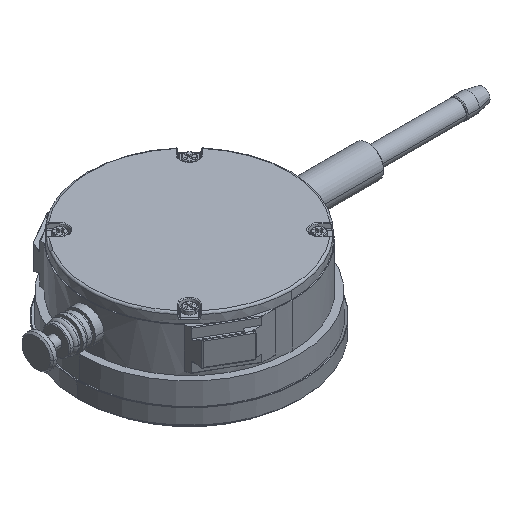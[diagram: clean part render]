
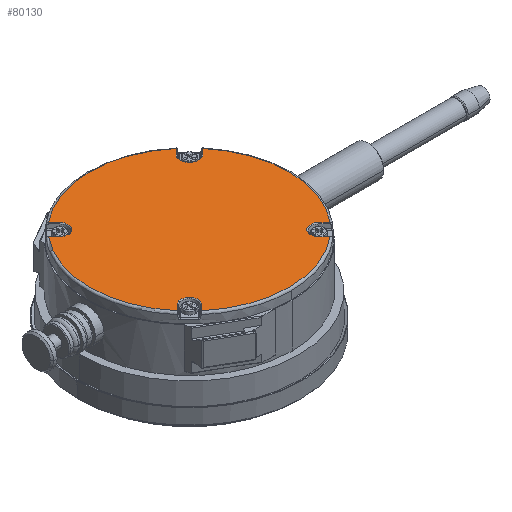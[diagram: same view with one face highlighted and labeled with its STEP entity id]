
A CAD part, isometric view. The second image highlights one B-rep face of the part: STEP entity #80130.
In plain terms, the highlighted planar face has unit normal (0, 0, 1).
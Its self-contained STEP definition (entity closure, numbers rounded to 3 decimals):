
#51090=CARTESIAN_POINT('',(-19.359,16.288,2.1));
#51100=VERTEX_POINT('',#51090);
#52960=CARTESIAN_POINT('',(14.728,-18.082,2.1));
#52970=VERTEX_POINT('',#52960);
#53160=CARTESIAN_POINT('',(16.134,-19.488,2.1));
#53170=VERTEX_POINT('',#53160);
#53200=CARTESIAN_POINT('',(0.,-3.354,2.1));
#53210=DIRECTION('',(-0.707,0.707,0.));
#53220=VECTOR('',#53210,1.);
#53230=LINE('',#53200,#53220);
#53240=EDGE_CURVE('',#53170,#52970,#53230,.T.);
#54450=CARTESIAN_POINT('',(-16.288,19.359,2.1));
#54460=VERTEX_POINT('',#54450);
#63030=CARTESIAN_POINT('',(14.869,17.94,2.1));
#63040=VERTEX_POINT('',#63030);
#63130=CARTESIAN_POINT('',(17.94,14.869,2.1));
#63140=VERTEX_POINT('',#63130);
#63170=CARTESIAN_POINT('',(16.405,16.405,2.1));
#63180=DIRECTION('',(0.,0.,1.));
#63190=DIRECTION('',(-1.,0.,0.));
#63200=AXIS2_PLACEMENT_3D('',#63170,#63180,#63190);
#63210=CIRCLE('',#63200,2.172);
#63220=EDGE_CURVE('',#63040,#63140,#63210,.T.);
#73840=CARTESIAN_POINT('',(-19.359,-16.288,2.1));
#73850=VERTEX_POINT('',#73840);
#74190=CARTESIAN_POINT('',(0.,3.071,2.1));
#74200=DIRECTION('',(0.707,0.707,0.));
#74210=VECTOR('',#74200,1.);
#74220=LINE('',#74190,#74210);
#74230=CARTESIAN_POINT('',(-17.94,-14.869,2.1));
#74240=VERTEX_POINT('',#74230);
#74250=EDGE_CURVE('',#73850,#74240,#74220,.T.);
#75430=CARTESIAN_POINT('',(19.359,16.288,2.1));
#75440=VERTEX_POINT('',#75430);
#75910=CARTESIAN_POINT('',(0.,3.071,2.1));
#75920=DIRECTION('',(0.707,0.707,0.));
#75930=VECTOR('',#75920,1.);
#75940=LINE('',#75910,#75930);
#75950=CARTESIAN_POINT('',(16.288,19.359,2.1));
#75960=VERTEX_POINT('',#75950);
#75970=EDGE_CURVE('',#63040,#75960,#75940,.T.);
#76260=CARTESIAN_POINT('',(-16.288,-19.359,2.1));
#76270=VERTEX_POINT('',#76260);
#76300=CARTESIAN_POINT('',(0.,0.,2.1));
#76310=DIRECTION('',(0.,0.,-1.));
#76320=DIRECTION('',(-1.,0.,0.));
#76330=AXIS2_PLACEMENT_3D('',#76300,#76310,#76320);
#76340=CIRCLE('',#76330,25.3);
#76350=EDGE_CURVE('',#53170,#76270,#76340,.T.);
#79190=CARTESIAN_POINT('',(0.,0.,2.1));
#79200=DIRECTION('',(0.,0.,-1.));
#79210=DIRECTION('',(1.,0.,0.));
#79220=AXIS2_PLACEMENT_3D('',#79190,#79200,#79210);
#79230=PLANE('',#79220);
#79240=ORIENTED_EDGE('',*,*,#76350,.F.);
#79250=CARTESIAN_POINT('',(0.,-3.071,2.1));
#79260=DIRECTION('',(-0.707,-0.707,0.));
#79270=VECTOR('',#79260,1.);
#79280=LINE('',#79250,#79270);
#79290=CARTESIAN_POINT('',(-14.869,-17.94,2.1));
#79300=VERTEX_POINT('',#79290);
#79310=EDGE_CURVE('',#79300,#76270,#79280,.T.);
#79320=ORIENTED_EDGE('',*,*,#79310,.T.);
#79330=CARTESIAN_POINT('',(-16.405,-16.405,2.1));
#79340=DIRECTION('',(0.,0.,1.));
#79350=DIRECTION('',(-1.,0.,0.));
#79360=AXIS2_PLACEMENT_3D('',#79330,#79340,#79350);
#79370=CIRCLE('',#79360,2.172);
#79380=EDGE_CURVE('',#79300,#74240,#79370,.T.);
#79390=ORIENTED_EDGE('',*,*,#79380,.F.);
#79400=ORIENTED_EDGE('',*,*,#74250,.T.);
#79410=CARTESIAN_POINT('',(0.,0.,2.1));
#79420=DIRECTION('',(0.,0.,-1.));
#79430=DIRECTION('',(-1.,0.,0.));
#79440=AXIS2_PLACEMENT_3D('',#79410,#79420,#79430);
#79450=CIRCLE('',#79440,25.3);
#79460=EDGE_CURVE('',#73850,#51100,#79450,.T.);
#79470=ORIENTED_EDGE('',*,*,#79460,.F.);
#79480=CARTESIAN_POINT('',(0.,-3.071,2.1));
#79490=DIRECTION('',(-0.707,0.707,0.));
#79500=VECTOR('',#79490,1.);
#79510=LINE('',#79480,#79500);
#79520=CARTESIAN_POINT('',(-17.94,14.869,2.1));
#79530=VERTEX_POINT('',#79520);
#79540=EDGE_CURVE('',#79530,#51100,#79510,.T.);
#79550=ORIENTED_EDGE('',*,*,#79540,.T.);
#79560=CARTESIAN_POINT('',(-16.405,16.405,2.1));
#79570=DIRECTION('',(0.,0.,1.));
#79580=DIRECTION('',(-1.,0.,0.));
#79590=AXIS2_PLACEMENT_3D('',#79560,#79570,#79580);
#79600=CIRCLE('',#79590,2.172);
#79610=CARTESIAN_POINT('',(-14.869,17.94,2.1));
#79620=VERTEX_POINT('',#79610);
#79630=EDGE_CURVE('',#79530,#79620,#79600,.T.);
#79640=ORIENTED_EDGE('',*,*,#79630,.F.);
#79650=CARTESIAN_POINT('',(0.,3.071,2.1));
#79660=DIRECTION('',(0.707,-0.707,0.));
#79670=VECTOR('',#79660,1.);
#79680=LINE('',#79650,#79670);
#79690=EDGE_CURVE('',#54460,#79620,#79680,.T.);
#79700=ORIENTED_EDGE('',*,*,#79690,.T.);
#79710=CARTESIAN_POINT('',(0.,0.,2.1));
#79720=DIRECTION('',(0.,0.,-1.));
#79730=DIRECTION('',(-1.,0.,0.));
#79740=AXIS2_PLACEMENT_3D('',#79710,#79720,#79730);
#79750=CIRCLE('',#79740,25.3);
#79760=EDGE_CURVE('',#54460,#75960,#79750,.T.);
#79770=ORIENTED_EDGE('',*,*,#79760,.F.);
#79780=ORIENTED_EDGE('',*,*,#75970,.T.);
#79790=ORIENTED_EDGE('',*,*,#63220,.F.);
#79800=CARTESIAN_POINT('',(0.,-3.071,2.1));
#79810=DIRECTION('',(-0.707,-0.707,0.));
#79820=VECTOR('',#79810,1.);
#79830=LINE('',#79800,#79820);
#79840=EDGE_CURVE('',#75440,#63140,#79830,.T.);
#79850=ORIENTED_EDGE('',*,*,#79840,.T.);
#79860=CARTESIAN_POINT('',(0.,0.,2.1));
#79870=DIRECTION('',(0.,0.,-1.));
#79880=DIRECTION('',(-1.,0.,0.));
#79890=AXIS2_PLACEMENT_3D('',#79860,#79870,#79880);
#79900=CIRCLE('',#79890,25.3);
#79910=CARTESIAN_POINT('',(19.488,-16.134,2.1));
#79920=VERTEX_POINT('',#79910);
#79930=EDGE_CURVE('',#75440,#79920,#79900,.T.);
#79940=ORIENTED_EDGE('',*,*,#79930,.F.);
#79950=CARTESIAN_POINT('',(0.,3.354,2.1));
#79960=DIRECTION('',(0.707,-0.707,0.));
#79970=VECTOR('',#79960,1.);
#79980=LINE('',#79950,#79970);
#79990=CARTESIAN_POINT('',(18.082,-14.728,2.1));
#80000=VERTEX_POINT('',#79990);
#80010=EDGE_CURVE('',#80000,#79920,#79980,.T.);
#80020=ORIENTED_EDGE('',*,*,#80010,.T.);
#80030=CARTESIAN_POINT('',(16.405,-16.405,2.1));
#80040=DIRECTION('',(0.,0.,1.));
#80050=DIRECTION('',(-1.,0.,0.));
#80060=AXIS2_PLACEMENT_3D('',#80030,#80040,#80050);
#80070=CIRCLE('',#80060,2.372);
#80080=EDGE_CURVE('',#80000,#52970,#80070,.T.);
#80090=ORIENTED_EDGE('',*,*,#80080,.F.);
#80100=ORIENTED_EDGE('',*,*,#53240,.T.);
#80110=EDGE_LOOP('',(#80100,#80090,#80020,#79940,#79850,#79790,#79780,
#79770,#79700,#79640,#79550,#79470,#79400,#79390,#79320,#79240));
#80120=FACE_OUTER_BOUND('',#80110,.T.);
#80130=ADVANCED_FACE('',(#80120),#79230,.F.);
